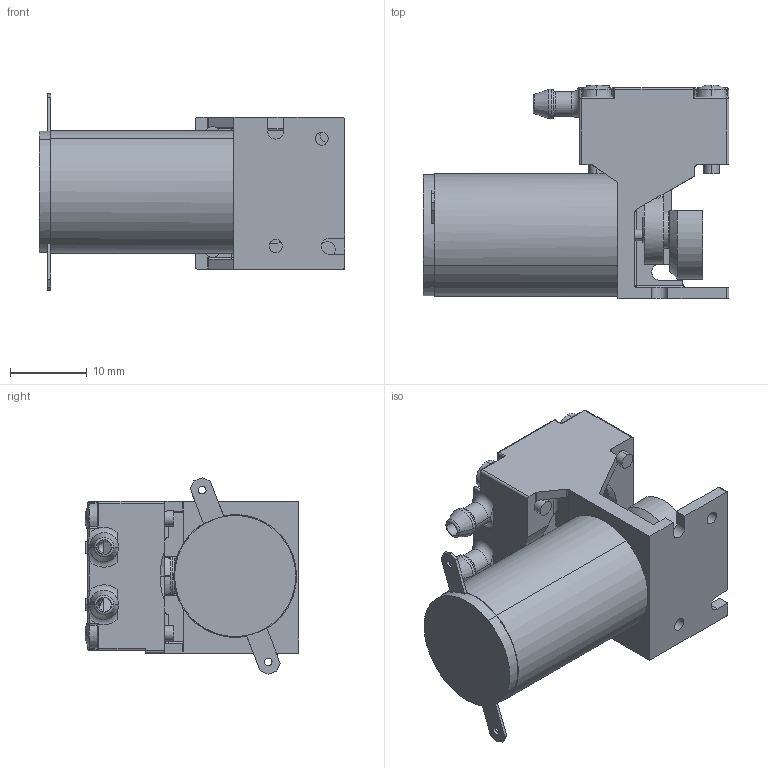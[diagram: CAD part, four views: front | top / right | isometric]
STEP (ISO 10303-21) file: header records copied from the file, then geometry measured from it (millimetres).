
FILE_DESCRIPTION((''),'2;1');
FILE_NAME('NMP09L-070228-PUMPE-ID-046304','2015-01-28T',('rsenra'),('KNF Neuberger GmbH'),'PRO/ENGINEER BY PARAMETRIC TECHNOLOGY CORPORATION, 2011310','PRO/ENGINEER BY PARAMETRIC TECHNOLOGY CORPORATION, 2011310','');
FILE_SCHEMA(('CONFIG_CONTROL_DESIGN'));
Length unit declared in the file: millimetre
Products named in the file (1): NMP09L-070228-PUMPE-ID-046304
Bounding box: 39.85 x 27.86 x 25.64 mm (x, y, z)
Volume: 8882.9 mm3; surface area: 6235.6 mm2
Topology: 2 solids, 2 shells, 659 faces, 1589 edges, 968 vertices
Faces by surface type: cylinder 216, plane 199, extrusion 120, cone 53, torus 36, sphere 23, bspline 12
Entity records: 22065 total; most frequent: CARTESIAN_POINT 7012, ORIENTED_EDGE 3178, DIRECTION 2908, EDGE_CURVE 1589, AXIS2_PLACEMENT_3D 1097, VERTEX_POINT 1082, VECTOR 714, EDGE_LOOP 711
